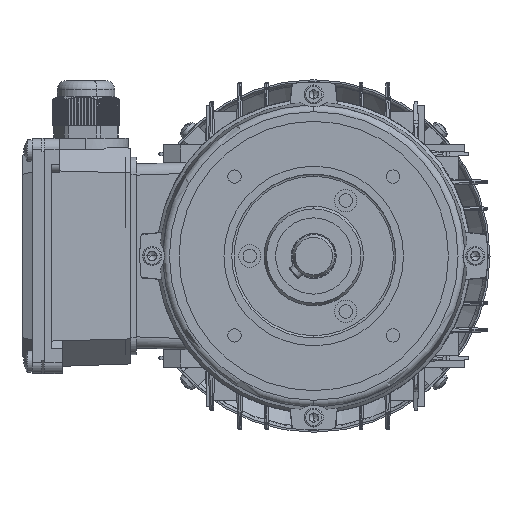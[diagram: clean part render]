
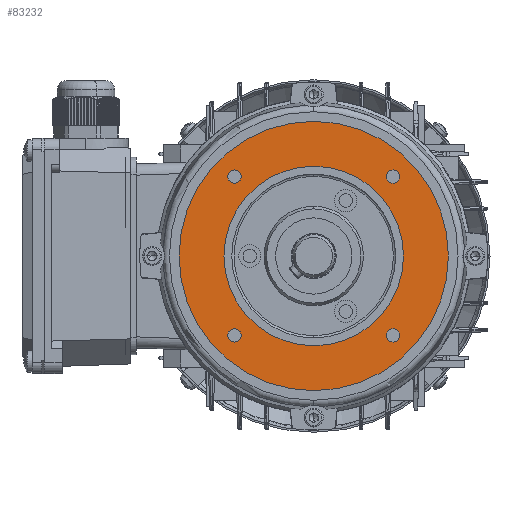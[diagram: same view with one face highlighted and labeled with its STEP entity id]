
A CAD part, left-side view. The second image highlights one B-rep face of the part: STEP entity #83232.
In plain terms, the highlighted planar face has unit normal (-1, 0, 0).
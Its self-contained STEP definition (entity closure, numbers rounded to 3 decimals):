
#19314 = CARTESIAN_POINT ( 'NONE',  ( 3., 35.355, -38.355 ) ) ;
#19315 = CARTESIAN_POINT ( 'NONE',  ( 3., 35.355, -32.355 ) ) ;
#19319 = DIRECTION ( 'NONE',  ( 0., 0., -1. ) ) ;
#19320 = DIRECTION ( 'NONE',  ( 1., 0., 0. ) ) ;
#19321 = CARTESIAN_POINT ( 'NONE',  ( 3., 35.355, -35.355 ) ) ;
#19322 = AXIS2_PLACEMENT_3D ( 'NONE', #19321, #19320, #19319 ) ;
#19323 = CIRCLE ( 'NONE', #19322, 3. ) ;
#20529 = CARTESIAN_POINT ( 'NONE',  ( 3., 0., -40. ) ) ;
#20530 = CARTESIAN_POINT ( 'NONE',  ( 3., 0., 40. ) ) ;
#20531 = DIRECTION ( 'NONE',  ( 0., 0., 1. ) ) ;
#20532 = DIRECTION ( 'NONE',  ( -1., 0., 0. ) ) ;
#20533 = CARTESIAN_POINT ( 'NONE',  ( 3., 0., 0. ) ) ;
#20534 = AXIS2_PLACEMENT_3D ( 'NONE', #20533, #20532, #20531 ) ;
#20535 = CIRCLE ( 'NONE', #20534, 40. ) ;
#52818 = CARTESIAN_POINT ( 'NONE',  ( 3., -35.355, 32.355 ) ) ;
#52825 = CARTESIAN_POINT ( 'NONE',  ( 3., -35.355, 38.355 ) ) ;
#52879 = CARTESIAN_POINT ( 'NONE',  ( 3., 35.355, 38.355 ) ) ;
#52923 = CARTESIAN_POINT ( 'NONE',  ( 3., 35.355, 32.355 ) ) ;
#52988 = CARTESIAN_POINT ( 'NONE',  ( 3., 0., -60. ) ) ;
#53034 = DIRECTION ( 'NONE',  ( 0., 0., -1. ) ) ;
#53036 = DIRECTION ( 'NONE',  ( 1., 0., 0. ) ) ;
#53038 = CARTESIAN_POINT ( 'NONE',  ( 3., 35.355, 35.355 ) ) ;
#53039 = AXIS2_PLACEMENT_3D ( 'NONE', #53038, #53036, #53034 ) ;
#53040 = CIRCLE ( 'NONE', #53039, 3. ) ;
#53058 = DIRECTION ( 'NONE',  ( 0., 0., -1. ) ) ;
#53060 = DIRECTION ( 'NONE',  ( 1., 0., 0. ) ) ;
#53062 = CARTESIAN_POINT ( 'NONE',  ( 3., -35.355, 35.355 ) ) ;
#53064 = AXIS2_PLACEMENT_3D ( 'NONE', #53062, #53060, #53058 ) ;
#53065 = CIRCLE ( 'NONE', #53064, 3. ) ;
#53069 = CARTESIAN_POINT ( 'NONE',  ( 3., -35.355, -38.355 ) ) ;
#53071 = CARTESIAN_POINT ( 'NONE',  ( 3., -35.355, -32.355 ) ) ;
#53072 = DIRECTION ( 'NONE',  ( 0., 0., -1. ) ) ;
#53073 = DIRECTION ( 'NONE',  ( 1., 0., 0. ) ) ;
#53074 = CARTESIAN_POINT ( 'NONE',  ( 3., -35.355, -35.355 ) ) ;
#53075 = AXIS2_PLACEMENT_3D ( 'NONE', #53074, #53073, #53072 ) ;
#53085 = CIRCLE ( 'NONE', #53075, 3. ) ;
#53107 = DIRECTION ( 'NONE',  ( 0., 0., 1. ) ) ;
#53108 = DIRECTION ( 'NONE',  ( -1., 0., 0. ) ) ;
#53109 = CARTESIAN_POINT ( 'NONE',  ( 3., 0., 0. ) ) ;
#53110 = AXIS2_PLACEMENT_3D ( 'NONE', #53109, #53108, #53107 ) ;
#53113 = CIRCLE ( 'NONE', #53110, 60. ) ;
#53312 = CARTESIAN_POINT ( 'NONE',  ( 3., 0., 60. ) ) ;
#67248 = CARTESIAN_POINT ( 'NONE',  ( 3., 0., 0. ) ) ;
#67249 = PLANE ( 'NONE',  #67267 ) ;
#67251 = DIRECTION ( 'NONE',  ( 0., 0., 1. ) ) ;
#67252 = DIRECTION ( 'NONE',  ( -1., 0., 0. ) ) ;
#67253 = AXIS2_PLACEMENT_3D ( 'NONE', #67248, #67252, #67251 ) ;
#67254 = CIRCLE ( 'NONE', #67253, 40. ) ;
#67267 = AXIS2_PLACEMENT_3D ( 'NONE', #67306, #67305, #67339 ) ;
#67270 = FACE_BOUND ( 'NONE', #83248, .T. ) ;
#67271 = FACE_BOUND ( 'NONE', #83241, .T. ) ;
#67305 = DIRECTION ( 'NONE',  ( 1., 0., 0. ) ) ;
#67306 = CARTESIAN_POINT ( 'NONE',  ( 3., 40., 0. ) ) ;
#67307 = FACE_OUTER_BOUND ( 'NONE', #83221, .T. ) ;
#67308 = FACE_BOUND ( 'NONE', #83215, .T. ) ;
#67309 = FACE_BOUND ( 'NONE', #83283, .T. ) ;
#67310 = FACE_BOUND ( 'NONE', #83233, .T. ) ;
#67311 = CARTESIAN_POINT ( 'NONE',  ( 3., 0., 0. ) ) ;
#67312 = AXIS2_PLACEMENT_3D ( 'NONE', #67311, #67357, #67356 ) ;
#67313 = CIRCLE ( 'NONE', #67312, 60. ) ;
#67319 = DIRECTION ( 'NONE',  ( 0., 0., -1. ) ) ;
#67320 = DIRECTION ( 'NONE',  ( 1., 0., 0. ) ) ;
#67321 = CARTESIAN_POINT ( 'NONE',  ( 3., -35.355, 35.355 ) ) ;
#67322 = AXIS2_PLACEMENT_3D ( 'NONE', #67321, #67320, #67319 ) ;
#67327 = CIRCLE ( 'NONE', #67322, 3. ) ;
#67330 = DIRECTION ( 'NONE',  ( 0., 0., -1. ) ) ;
#67331 = DIRECTION ( 'NONE',  ( 1., 0., 0. ) ) ;
#67332 = CARTESIAN_POINT ( 'NONE',  ( 3., 35.355, 35.355 ) ) ;
#67333 = AXIS2_PLACEMENT_3D ( 'NONE', #67332, #67331, #67330 ) ;
#67334 = CIRCLE ( 'NONE', #67333, 3. ) ;
#67339 = DIRECTION ( 'NONE',  ( 0., 0., -1. ) ) ;
#67356 = DIRECTION ( 'NONE',  ( 0., 0., 1. ) ) ;
#67357 = DIRECTION ( 'NONE',  ( -1., 0., 0. ) ) ;
#67388 = DIRECTION ( 'NONE',  ( 0., 0., -1. ) ) ;
#67389 = DIRECTION ( 'NONE',  ( 1., 0., 0. ) ) ;
#67390 = CARTESIAN_POINT ( 'NONE',  ( 3., -35.355, -35.355 ) ) ;
#67391 = AXIS2_PLACEMENT_3D ( 'NONE', #67390, #67389, #67388 ) ;
#67392 = CIRCLE ( 'NONE', #67391, 3. ) ;
#67430 = DIRECTION ( 'NONE',  ( 0., 0., -1. ) ) ;
#67431 = DIRECTION ( 'NONE',  ( 1., 0., 0. ) ) ;
#67432 = CARTESIAN_POINT ( 'NONE',  ( 3., 35.355, -35.355 ) ) ;
#67433 = AXIS2_PLACEMENT_3D ( 'NONE', #67432, #67431, #67430 ) ;
#67434 = CIRCLE ( 'NONE', #67433, 3. ) ;
#79607 = VERTEX_POINT ( 'NONE', #52825 ) ;
#79610 = VERTEX_POINT ( 'NONE', #52818 ) ;
#79623 = VERTEX_POINT ( 'NONE', #52879 ) ;
#79645 = VERTEX_POINT ( 'NONE', #52923 ) ;
#79661 = VERTEX_POINT ( 'NONE', #52988 ) ;
#79667 = EDGE_CURVE ( 'NONE', #79668, #79669, #53085, .T. ) ;
#79668 = VERTEX_POINT ( 'NONE', #53071 ) ;
#79669 = VERTEX_POINT ( 'NONE', #53069 ) ;
#79672 = EDGE_CURVE ( 'NONE', #79607, #79610, #53065, .T. ) ;
#79679 = EDGE_CURVE ( 'NONE', #79623, #79645, #53040, .T. ) ;
#79683 = EDGE_CURVE ( 'NONE', #79723, #79661, #53113, .T. ) ;
#79723 = VERTEX_POINT ( 'NONE', #53312 ) ;
#83215 = EDGE_LOOP ( 'NONE', ( #83217, #83220 ) ) ;
#83217 = ORIENTED_EDGE ( 'NONE', *, *, #97136, .F. ) ;
#83220 = ORIENTED_EDGE ( 'NONE', *, *, #83225, .F. ) ;
#83221 = EDGE_LOOP ( 'NONE', ( #83223, #83252 ) ) ;
#83223 = ORIENTED_EDGE ( 'NONE', *, *, #79683, .T. ) ;
#83225 = EDGE_CURVE ( 'NONE', #97141, #97137, #67254, .T. ) ;
#83232 = ADVANCED_FACE ( 'NONE', ( #67310, #67271, #67270, #67309, #67308, #67307 ), #67249, .F. ) ;
#83233 = EDGE_LOOP ( 'NONE', ( #83236, #83239 ) ) ;
#83236 = ORIENTED_EDGE ( 'NONE', *, *, #83237, .T. ) ;
#83237 = EDGE_CURVE ( 'NONE', #79645, #79623, #67334, .T. ) ;
#83239 = ORIENTED_EDGE ( 'NONE', *, *, #79679, .T. ) ;
#83241 = EDGE_LOOP ( 'NONE', ( #83243, #83247 ) ) ;
#83243 = ORIENTED_EDGE ( 'NONE', *, *, #83245, .T. ) ;
#83245 = EDGE_CURVE ( 'NONE', #79610, #79607, #67327, .T. ) ;
#83247 = ORIENTED_EDGE ( 'NONE', *, *, #79672, .T. ) ;
#83248 = EDGE_LOOP ( 'NONE', ( #83277, #83282 ) ) ;
#83252 = ORIENTED_EDGE ( 'NONE', *, *, #83254, .T. ) ;
#83254 = EDGE_CURVE ( 'NONE', #79661, #79723, #67313, .T. ) ;
#83277 = ORIENTED_EDGE ( 'NONE', *, *, #83279, .T. ) ;
#83279 = EDGE_CURVE ( 'NONE', #79669, #79668, #67392, .T. ) ;
#83282 = ORIENTED_EDGE ( 'NONE', *, *, #79667, .T. ) ;
#83283 = EDGE_LOOP ( 'NONE', ( #83285, #83289 ) ) ;
#83285 = ORIENTED_EDGE ( 'NONE', *, *, #83287, .T. ) ;
#83287 = EDGE_CURVE ( 'NONE', #96538, #96536, #67434, .T. ) ;
#83289 = ORIENTED_EDGE ( 'NONE', *, *, #96534, .T. ) ;
#96534 = EDGE_CURVE ( 'NONE', #96536, #96538, #19323, .T. ) ;
#96536 = VERTEX_POINT ( 'NONE', #19315 ) ;
#96538 = VERTEX_POINT ( 'NONE', #19314 ) ;
#97136 = EDGE_CURVE ( 'NONE', #97137, #97141, #20535, .T. ) ;
#97137 = VERTEX_POINT ( 'NONE', #20530 ) ;
#97141 = VERTEX_POINT ( 'NONE', #20529 ) ;
